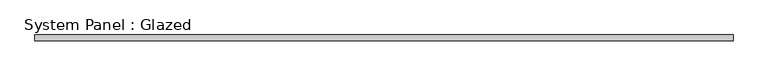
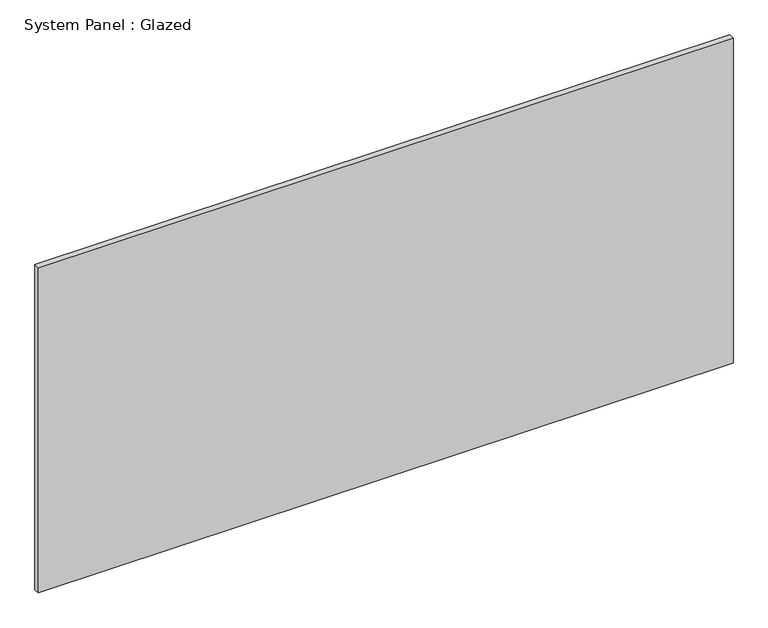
"""IFC4 building model written with IfcOpenShell, lengths in millimetres: plate geometry, System Panel : Glazed."""

from ifc_helpers import new_model, si_unit, origin, origin_with_axes, place, context, project, spatial, polyline, outline, extrude, source, transform, mapped, element, save


def system_panel_glazed_88acb840(model_context):
    return source(origin(), model_context, "Body", "SweptSolid", [
        extrude(outline(polyline([(1476.375, 19.05), (-1476.375, 19.05), (-1476.375, 44.45), (1476.375, 44.45), (1476.375, 19.05)])), origin_with_axes(), (0.0, 0.0, 1.0), 1460.5),
    ])


if __name__ == "__main__":
    model = new_model("IFC4")
    model_context = context("Model", 3, world=origin())
    ifc_project = project(units=[si_unit("LENGTHUNIT", "METRE", prefix="MILLI")], contexts=[model_context])
    site = spatial("IfcSite", under=ifc_project)
    building = spatial("IfcBuilding", under=site)
    placement = place(None, origin())
    system_panel_glazed_shape = system_panel_glazed_88acb840(model_context)
    element("IfcPlate", 1, ObjectType="System Panel : Glazed", at=placement, inside=building, context=model_context, shape_type="MappedRepresentation", body=[
        mapped(system_panel_glazed_shape, transform((0.0, 0.0, 0.0), x_axis=(1.0, 0.0, 0.0), y_axis=(0.0, 1.0, 0.0), z_axis=(0.0, 0.0, 1.0))),
    ])
    save(model, "model.ifc")
